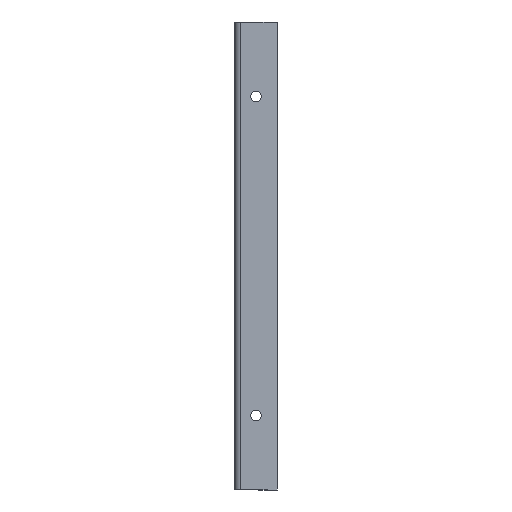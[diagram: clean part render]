
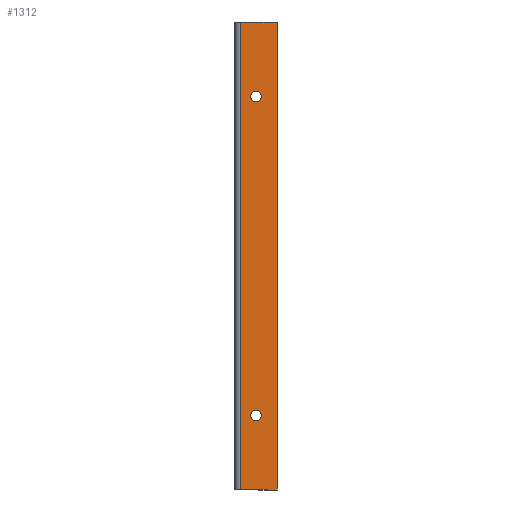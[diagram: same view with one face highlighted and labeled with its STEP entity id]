
A CAD part, front view. The second image highlights one B-rep face of the part: STEP entity #1312.
In plain terms, the highlighted planar face has unit normal (0, -1, 0).
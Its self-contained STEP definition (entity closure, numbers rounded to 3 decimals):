
#14 = VERTEX_POINT ( 'NONE', #1290 ) ;
#34 = CARTESIAN_POINT ( 'NONE',  ( 120., -2., 100. ) ) ;
#35 = VERTEX_POINT ( 'NONE', #823 ) ;
#50 = CARTESIAN_POINT ( 'NONE',  ( 120., -2., 100. ) ) ;
#58 = FACE_BOUND ( 'NONE', #841, .T. ) ;
#60 = EDGE_CURVE ( 'NONE', #445, #1167, #1464, .T. ) ;
#128 = EDGE_LOOP ( 'NONE', ( #1893, #470, #1711, #1224 ) ) ;
#142 = CIRCLE ( 'NONE', #185, 2.5 ) ;
#169 = CARTESIAN_POINT ( 'NONE',  ( 110., -2., -85. ) ) ;
#185 = AXIS2_PLACEMENT_3D ( 'NONE', #1663, #761, #785 ) ;
#202 = DIRECTION ( 'NONE',  ( 0., -1., 0. ) ) ;
#230 = CIRCLE ( 'NONE', #429, 2.5 ) ;
#241 = VERTEX_POINT ( 'NONE', #1364 ) ;
#270 = CARTESIAN_POINT ( 'NONE',  ( 110., -2., 67.5 ) ) ;
#274 = CARTESIAN_POINT ( 'NONE',  ( 120., -2., 100. ) ) ;
#340 = DIRECTION ( 'NONE',  ( 0., 0., -1. ) ) ;
#418 = DIRECTION ( 'NONE',  ( -1., 0., 0. ) ) ;
#429 = AXIS2_PLACEMENT_3D ( 'NONE', #1410, #822, #1431 ) ;
#435 = EDGE_CURVE ( 'NONE', #241, #797, #142, .T. ) ;
#445 = VERTEX_POINT ( 'NONE', #50 ) ;
#459 = DIRECTION ( 'NONE',  ( 1., 0., 0. ) ) ;
#470 = ORIENTED_EDGE ( 'NONE', *, *, #1502, .T. ) ;
#511 = AXIS2_PLACEMENT_3D ( 'NONE', #169, #1197, #612 ) ;
#543 = VERTEX_POINT ( 'NONE', #270 ) ;
#561 = PLANE ( 'NONE',  #843 ) ;
#612 = DIRECTION ( 'NONE',  ( 0., 0., -1. ) ) ;
#696 = EDGE_CURVE ( 'NONE', #797, #241, #1856, .T. ) ;
#698 = ORIENTED_EDGE ( 'NONE', *, *, #1545, .F. ) ;
#716 = VECTOR ( 'NONE', #340, 1000. ) ;
#761 = DIRECTION ( 'NONE',  ( 0., -1., 0. ) ) ;
#785 = DIRECTION ( 'NONE',  ( 0., 0., -1. ) ) ;
#797 = VERTEX_POINT ( 'NONE', #1493 ) ;
#822 = DIRECTION ( 'NONE',  ( 0., -1., 0. ) ) ;
#823 = CARTESIAN_POINT ( 'NONE',  ( 102.736, -2., -120. ) ) ;
#841 = EDGE_LOOP ( 'NONE', ( #698, #1806 ) ) ;
#843 = AXIS2_PLACEMENT_3D ( 'NONE', #274, #1315, #418 ) ;
#845 = EDGE_CURVE ( 'NONE', #1167, #35, #963, .T. ) ;
#846 = VECTOR ( 'NONE', #459, 1000. ) ;
#932 = AXIS2_PLACEMENT_3D ( 'NONE', #1102, #202, #1284 ) ;
#934 = DIRECTION ( 'NONE',  ( -1., 0., 0. ) ) ;
#963 = LINE ( 'NONE', #1093, #1348 ) ;
#1083 = CARTESIAN_POINT ( 'NONE',  ( 102.736, -2., 100. ) ) ;
#1093 = CARTESIAN_POINT ( 'NONE',  ( 120., -2., -120. ) ) ;
#1102 = CARTESIAN_POINT ( 'NONE',  ( 110., -2., 65. ) ) ;
#1114 = LINE ( 'NONE', #1083, #716 ) ;
#1167 = VERTEX_POINT ( 'NONE', #1454 ) ;
#1197 = DIRECTION ( 'NONE',  ( 0., -1., 0. ) ) ;
#1215 = EDGE_LOOP ( 'NONE', ( #1547, #1731 ) ) ;
#1224 = ORIENTED_EDGE ( 'NONE', *, *, #60, .F. ) ;
#1251 = LINE ( 'NONE', #34, #846 ) ;
#1277 = CIRCLE ( 'NONE', #932, 2.5 ) ;
#1284 = DIRECTION ( 'NONE',  ( 0., 0., -1. ) ) ;
#1290 = CARTESIAN_POINT ( 'NONE',  ( 102.736, -2., 100. ) ) ;
#1312 = ADVANCED_FACE ( 'NONE', ( #1576, #58, #1556 ), #561, .T. ) ;
#1315 = DIRECTION ( 'NONE',  ( 0., -1., 0. ) ) ;
#1348 = VECTOR ( 'NONE', #934, 1000. ) ;
#1353 = EDGE_CURVE ( 'NONE', #14, #445, #1251, .T. ) ;
#1364 = CARTESIAN_POINT ( 'NONE',  ( 110., -2., -87.5 ) ) ;
#1410 = CARTESIAN_POINT ( 'NONE',  ( 110., -2., 65. ) ) ;
#1431 = DIRECTION ( 'NONE',  ( 0., 0., -1. ) ) ;
#1454 = CARTESIAN_POINT ( 'NONE',  ( 120., -2., -120. ) ) ;
#1458 = CARTESIAN_POINT ( 'NONE',  ( 110., -2., 62.5 ) ) ;
#1464 = LINE ( 'NONE', #1577, #1901 ) ;
#1467 = DIRECTION ( 'NONE',  ( 0., 0., -1. ) ) ;
#1493 = CARTESIAN_POINT ( 'NONE',  ( 110., -2., -82.5 ) ) ;
#1502 = EDGE_CURVE ( 'NONE', #14, #35, #1114, .T. ) ;
#1545 = EDGE_CURVE ( 'NONE', #543, #1697, #1277, .T. ) ;
#1547 = ORIENTED_EDGE ( 'NONE', *, *, #696, .F. ) ;
#1556 = FACE_OUTER_BOUND ( 'NONE', #128, .T. ) ;
#1576 = FACE_BOUND ( 'NONE', #1215, .T. ) ;
#1577 = CARTESIAN_POINT ( 'NONE',  ( 120., -2., 100. ) ) ;
#1630 = EDGE_CURVE ( 'NONE', #1697, #543, #230, .T. ) ;
#1663 = CARTESIAN_POINT ( 'NONE',  ( 110., -2., -85. ) ) ;
#1697 = VERTEX_POINT ( 'NONE', #1458 ) ;
#1711 = ORIENTED_EDGE ( 'NONE', *, *, #845, .F. ) ;
#1731 = ORIENTED_EDGE ( 'NONE', *, *, #435, .F. ) ;
#1806 = ORIENTED_EDGE ( 'NONE', *, *, #1630, .F. ) ;
#1856 = CIRCLE ( 'NONE', #511, 2.5 ) ;
#1893 = ORIENTED_EDGE ( 'NONE', *, *, #1353, .F. ) ;
#1901 = VECTOR ( 'NONE', #1467, 1000. ) ;
